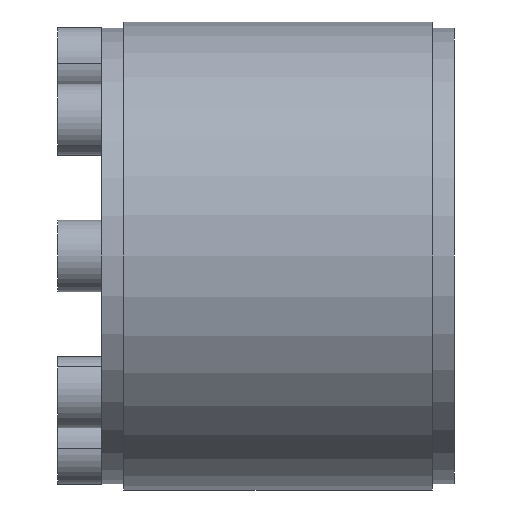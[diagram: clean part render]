
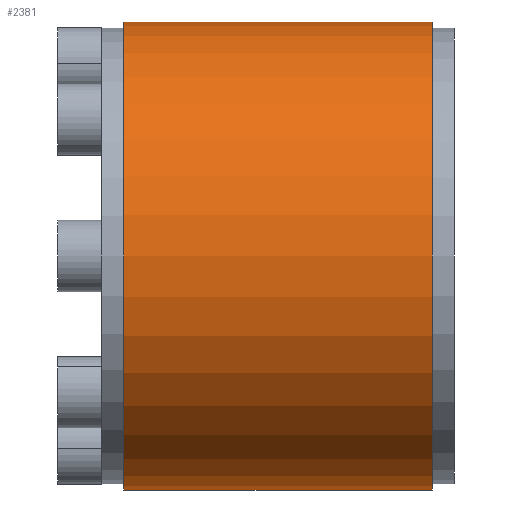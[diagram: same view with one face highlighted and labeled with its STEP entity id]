
A CAD part, front view. The second image highlights one B-rep face of the part: STEP entity #2381.
In plain terms, the highlighted cylindrical face has radius 42.5 mm (diameter 85 mm), a partial arc.
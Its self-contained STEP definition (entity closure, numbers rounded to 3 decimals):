
#1105 = CARTESIAN_POINT ( 'NONE',  ( 60., 0., 42.5 ) ) ;
#1116 = CARTESIAN_POINT ( 'NONE',  ( 4., 0., 42.5 ) ) ;
#1117 = DIRECTION ( 'NONE',  ( -1., 0., 0. ) ) ;
#1118 = VECTOR ( 'NONE', #1117, 1000. ) ;
#1123 = CARTESIAN_POINT ( 'NONE',  ( 60., 0., -42.5 ) ) ;
#1130 = CARTESIAN_POINT ( 'NONE',  ( 0., 0., -42.5 ) ) ;
#1131 = LINE ( 'NONE', #1130, #1118 ) ;
#1132 = CARTESIAN_POINT ( 'NONE',  ( 4., 0., -42.5 ) ) ;
#1157 = DIRECTION ( 'NONE',  ( -1., 0., 0. ) ) ;
#1158 = VECTOR ( 'NONE', #1157, 1000. ) ;
#1159 = CARTESIAN_POINT ( 'NONE',  ( 0., 0., 42.5 ) ) ;
#1161 = LINE ( 'NONE', #1159, #1158 ) ;
#2381 = ADVANCED_FACE ( 'NONE', ( #4509 ), #4508, .T. ) ;
#2382 = EDGE_LOOP ( 'NONE', ( #2406, #2405, #2435, #2430 ) ) ;
#2405 = ORIENTED_EDGE ( 'NONE', *, *, #2412, .T. ) ;
#2406 = ORIENTED_EDGE ( 'NONE', *, *, #3701, .F. ) ;
#2412 = EDGE_CURVE ( 'NONE', #3713, #3727, #4473, .T. ) ;
#2430 = ORIENTED_EDGE ( 'NONE', *, *, #2453, .F. ) ;
#2435 = ORIENTED_EDGE ( 'NONE', *, *, #3740, .T. ) ;
#2453 = EDGE_CURVE ( 'NONE', #3702, #3703, #4434, .T. ) ;
#3701 = EDGE_CURVE ( 'NONE', #3713, #3702, #1131, .T. ) ;
#3702 = VERTEX_POINT ( 'NONE', #1132 ) ;
#3703 = VERTEX_POINT ( 'NONE', #1116 ) ;
#3713 = VERTEX_POINT ( 'NONE', #1123 ) ;
#3727 = VERTEX_POINT ( 'NONE', #1105 ) ;
#3740 = EDGE_CURVE ( 'NONE', #3727, #3703, #1161, .T. ) ;
#4430 = DIRECTION ( 'NONE',  ( 0., 0., 1. ) ) ;
#4431 = DIRECTION ( 'NONE',  ( -1., 0., 0. ) ) ;
#4432 = CARTESIAN_POINT ( 'NONE',  ( 4., 0., 0. ) ) ;
#4433 = AXIS2_PLACEMENT_3D ( 'NONE', #4432, #4431, #4430 ) ;
#4434 = CIRCLE ( 'NONE', #4433, 42.5 ) ;
#4470 = DIRECTION ( 'NONE',  ( 0., 0., 1. ) ) ;
#4471 = DIRECTION ( 'NONE',  ( -1., 0., 0. ) ) ;
#4472 = AXIS2_PLACEMENT_3D ( 'NONE', #4478, #4471, #4470 ) ;
#4473 = CIRCLE ( 'NONE', #4472, 42.5 ) ;
#4478 = CARTESIAN_POINT ( 'NONE',  ( 60., 0., 0. ) ) ;
#4503 = DIRECTION ( 'NONE',  ( 0., 0., 1. ) ) ;
#4504 = DIRECTION ( 'NONE',  ( -1., 0., 0. ) ) ;
#4505 = CARTESIAN_POINT ( 'NONE',  ( 0., 0., 0. ) ) ;
#4506 = AXIS2_PLACEMENT_3D ( 'NONE', #4505, #4504, #4503 ) ;
#4508 = CYLINDRICAL_SURFACE ( 'NONE', #4506, 42.5 ) ;
#4509 = FACE_OUTER_BOUND ( 'NONE', #2382, .T. ) ;
